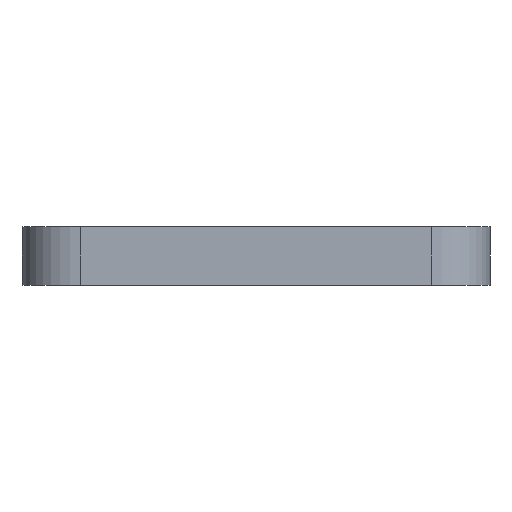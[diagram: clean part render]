
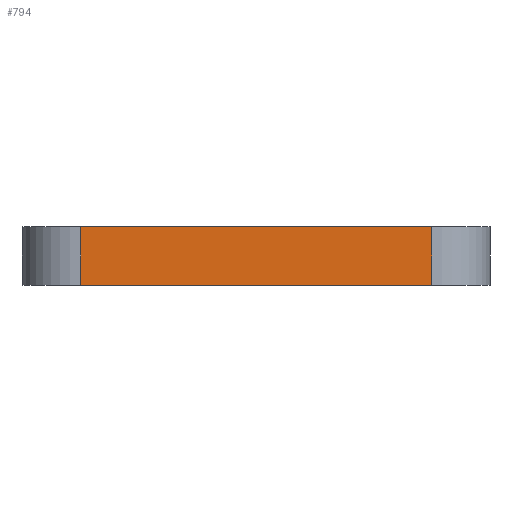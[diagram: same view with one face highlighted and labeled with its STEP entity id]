
A CAD part, front view. The second image highlights one B-rep face of the part: STEP entity #794.
In plain terms, the highlighted planar face has unit normal (0, -1, 0).
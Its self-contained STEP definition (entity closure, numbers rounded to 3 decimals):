
#44 = PLANE('',#45);
#45 = AXIS2_PLACEMENT_3D('',#46,#47,#48);
#46 = CARTESIAN_POINT('',(21.,-50.,26.));
#47 = DIRECTION('',(0.,0.,1.));
#48 = DIRECTION('',(1.,0.,-0.));
#72 = CYLINDRICAL_SURFACE('',#73,2.);
#73 = AXIS2_PLACEMENT_3D('',#74,#75,#76);
#74 = CARTESIAN_POINT('',(23.,-48.,24.));
#75 = DIRECTION('',(0.,0.,1.));
#76 = DIRECTION('',(-1.,-0.,0.));
#100 = PLANE('',#101);
#101 = AXIS2_PLACEMENT_3D('',#102,#103,#104);
#102 = CARTESIAN_POINT('',(21.,-50.,24.));
#103 = DIRECTION('',(0.,0.,1.));
#104 = DIRECTION('',(1.,0.,-0.));
#143 = VERTEX_POINT('',#144);
#144 = CARTESIAN_POINT('',(23.,-50.,26.));
#166 = EDGE_CURVE('',#143,#167,#169,.T.);
#167 = VERTEX_POINT('',#168);
#168 = CARTESIAN_POINT('',(35.,-50.,26.));
#169 = SURFACE_CURVE('',#170,(#174,#181),.PCURVE_S1.);
#170 = LINE('',#171,#172);
#171 = CARTESIAN_POINT('',(21.,-50.,26.));
#172 = VECTOR('',#173,1.);
#173 = DIRECTION('',(1.,0.,-0.));
#174 = PCURVE('',#44,#175);
#175 = DEFINITIONAL_REPRESENTATION('',(#176),#180);
#176 = LINE('',#177,#178);
#177 = CARTESIAN_POINT('',(0.,0.));
#178 = VECTOR('',#179,1.);
#179 = DIRECTION('',(1.,0.));
#180 = ( GEOMETRIC_REPRESENTATION_CONTEXT(2) 
PARAMETRIC_REPRESENTATION_CONTEXT() REPRESENTATION_CONTEXT('2D SPACE',''
  ) );
#181 = PCURVE('',#182,#187);
#182 = PLANE('',#183);
#183 = AXIS2_PLACEMENT_3D('',#184,#185,#186);
#184 = CARTESIAN_POINT('',(21.,-50.,24.));
#185 = DIRECTION('',(-0.,1.,0.));
#186 = DIRECTION('',(0.,0.,1.));
#187 = DEFINITIONAL_REPRESENTATION('',(#188),#192);
#188 = LINE('',#189,#190);
#189 = CARTESIAN_POINT('',(2.,0.));
#190 = VECTOR('',#191,1.);
#191 = DIRECTION('',(0.,1.));
#192 = ( GEOMETRIC_REPRESENTATION_CONTEXT(2) 
PARAMETRIC_REPRESENTATION_CONTEXT() REPRESENTATION_CONTEXT('2D SPACE',''
  ) );
#215 = CYLINDRICAL_SURFACE('',#216,2.);
#216 = AXIS2_PLACEMENT_3D('',#217,#218,#219);
#217 = CARTESIAN_POINT('',(35.,-48.,24.));
#218 = DIRECTION('',(0.,0.,1.));
#219 = DIRECTION('',(1.,0.,-0.));
#466 = VERTEX_POINT('',#467);
#467 = CARTESIAN_POINT('',(23.,-50.,24.));
#489 = EDGE_CURVE('',#466,#143,#490,.T.);
#490 = SURFACE_CURVE('',#491,(#495,#502),.PCURVE_S1.);
#491 = LINE('',#492,#493);
#492 = CARTESIAN_POINT('',(23.,-50.,24.));
#493 = VECTOR('',#494,1.);
#494 = DIRECTION('',(0.,0.,1.));
#495 = PCURVE('',#72,#496);
#496 = DEFINITIONAL_REPRESENTATION('',(#497),#501);
#497 = LINE('',#498,#499);
#498 = CARTESIAN_POINT('',(1.571,0.));
#499 = VECTOR('',#500,1.);
#500 = DIRECTION('',(0.,1.));
#501 = ( GEOMETRIC_REPRESENTATION_CONTEXT(2) 
PARAMETRIC_REPRESENTATION_CONTEXT() REPRESENTATION_CONTEXT('2D SPACE',''
  ) );
#502 = PCURVE('',#182,#503);
#503 = DEFINITIONAL_REPRESENTATION('',(#504),#508);
#504 = LINE('',#505,#506);
#505 = CARTESIAN_POINT('',(0.,2.));
#506 = VECTOR('',#507,1.);
#507 = DIRECTION('',(1.,0.));
#508 = ( GEOMETRIC_REPRESENTATION_CONTEXT(2) 
PARAMETRIC_REPRESENTATION_CONTEXT() REPRESENTATION_CONTEXT('2D SPACE',''
  ) );
#571 = EDGE_CURVE('',#466,#572,#574,.T.);
#572 = VERTEX_POINT('',#573);
#573 = CARTESIAN_POINT('',(35.,-50.,24.));
#574 = SURFACE_CURVE('',#575,(#579,#586),.PCURVE_S1.);
#575 = LINE('',#576,#577);
#576 = CARTESIAN_POINT('',(21.,-50.,24.));
#577 = VECTOR('',#578,1.);
#578 = DIRECTION('',(1.,0.,-0.));
#579 = PCURVE('',#100,#580);
#580 = DEFINITIONAL_REPRESENTATION('',(#581),#585);
#581 = LINE('',#582,#583);
#582 = CARTESIAN_POINT('',(0.,0.));
#583 = VECTOR('',#584,1.);
#584 = DIRECTION('',(1.,0.));
#585 = ( GEOMETRIC_REPRESENTATION_CONTEXT(2) 
PARAMETRIC_REPRESENTATION_CONTEXT() REPRESENTATION_CONTEXT('2D SPACE',''
  ) );
#586 = PCURVE('',#182,#587);
#587 = DEFINITIONAL_REPRESENTATION('',(#588),#592);
#588 = LINE('',#589,#590);
#589 = CARTESIAN_POINT('',(0.,0.));
#590 = VECTOR('',#591,1.);
#591 = DIRECTION('',(0.,1.));
#592 = ( GEOMETRIC_REPRESENTATION_CONTEXT(2) 
PARAMETRIC_REPRESENTATION_CONTEXT() REPRESENTATION_CONTEXT('2D SPACE',''
  ) );
#794 = ADVANCED_FACE('',(#795),#182,.F.);
#795 = FACE_BOUND('',#796,.F.);
#796 = EDGE_LOOP('',(#797,#798,#799,#800));
#797 = ORIENTED_EDGE('',*,*,#571,.F.);
#798 = ORIENTED_EDGE('',*,*,#489,.T.);
#799 = ORIENTED_EDGE('',*,*,#166,.T.);
#800 = ORIENTED_EDGE('',*,*,#801,.F.);
#801 = EDGE_CURVE('',#572,#167,#802,.T.);
#802 = SURFACE_CURVE('',#803,(#807,#814),.PCURVE_S1.);
#803 = LINE('',#804,#805);
#804 = CARTESIAN_POINT('',(35.,-50.,24.));
#805 = VECTOR('',#806,1.);
#806 = DIRECTION('',(0.,0.,1.));
#807 = PCURVE('',#182,#808);
#808 = DEFINITIONAL_REPRESENTATION('',(#809),#813);
#809 = LINE('',#810,#811);
#810 = CARTESIAN_POINT('',(0.,14.));
#811 = VECTOR('',#812,1.);
#812 = DIRECTION('',(1.,0.));
#813 = ( GEOMETRIC_REPRESENTATION_CONTEXT(2) 
PARAMETRIC_REPRESENTATION_CONTEXT() REPRESENTATION_CONTEXT('2D SPACE',''
  ) );
#814 = PCURVE('',#215,#815);
#815 = DEFINITIONAL_REPRESENTATION('',(#816),#820);
#816 = LINE('',#817,#818);
#817 = CARTESIAN_POINT('',(-1.571,0.));
#818 = VECTOR('',#819,1.);
#819 = DIRECTION('',(-0.,1.));
#820 = ( GEOMETRIC_REPRESENTATION_CONTEXT(2) 
PARAMETRIC_REPRESENTATION_CONTEXT() REPRESENTATION_CONTEXT('2D SPACE',''
  ) );
